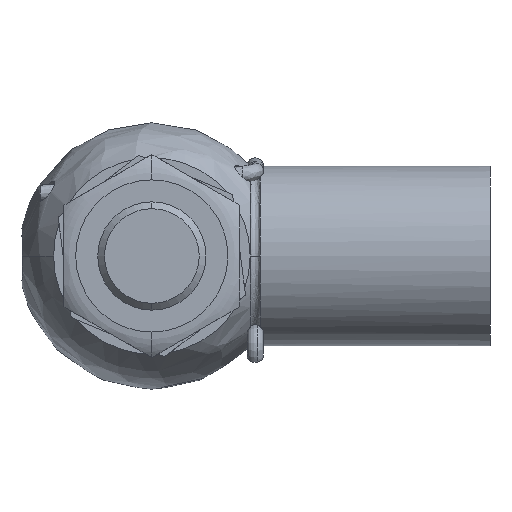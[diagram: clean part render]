
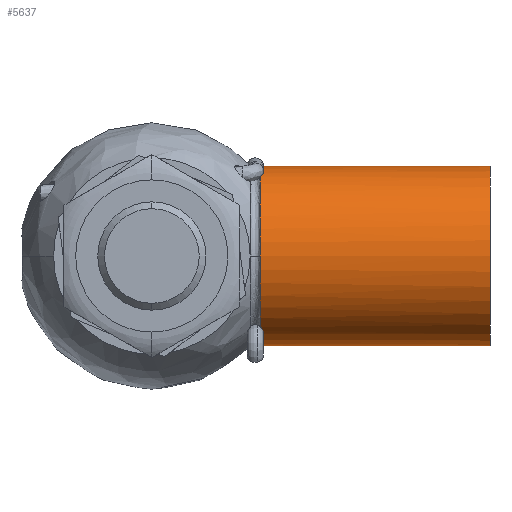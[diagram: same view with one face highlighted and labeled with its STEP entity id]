
A CAD part, front view. The second image highlights one B-rep face of the part: STEP entity #5637.
In plain terms, the highlighted cylindrical face has radius 6.65 mm (diameter 13.3 mm), a partial arc.
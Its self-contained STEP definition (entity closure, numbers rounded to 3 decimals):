
#27 = CARTESIAN_POINT ( 'NONE',  ( 8.021, 14.803, -5.273 ) ) ;
#44 = CARTESIAN_POINT ( 'NONE',  ( 8.021, 15.721, 5.858 ) ) ;
#184 = CARTESIAN_POINT ( 'NONE',  ( 8.246, 16.327, 6.144 ) ) ;
#229 = DIRECTION ( 'NONE',  ( 1., 0., 0. ) ) ;
#489 = DIRECTION ( 'NONE',  ( -1., 0., 0. ) ) ;
#551 = CARTESIAN_POINT ( 'NONE',  ( 8.246, 16.327, 6.144 ) ) ;
#578 = CARTESIAN_POINT ( 'NONE',  ( 8.245, 15.267, -5.602 ) ) ;
#673 = CARTESIAN_POINT ( 'NONE',  ( 8.245, 17.994, 6.603 ) ) ;
#787 = CARTESIAN_POINT ( 'NONE',  ( 8.021, 18.861, -0.004 ) ) ;
#913 = CIRCLE ( 'NONE', #7521, 6.65 ) ;
#1137 = DIRECTION ( 'NONE',  ( 1., 0., 0. ) ) ;
#1139 = EDGE_CURVE ( 'NONE', #2258, #8980, #3298, .T. ) ;
#1181 = CARTESIAN_POINT ( 'NONE',  ( 8.245, 15.536, -5.763 ) ) ;
#1233 = CARTESIAN_POINT ( 'NONE',  ( 8.215, 16.108, 6.05 ) ) ;
#1338 = DIRECTION ( 'NONE',  ( 1., 0., 0. ) ) ;
#1357 = ORIENTED_EDGE ( 'NONE', *, *, #8359, .T. ) ;
#1374 = EDGE_CURVE ( 'NONE', #6977, #8491, #6641, .T. ) ;
#1393 = CARTESIAN_POINT ( 'NONE',  ( 8.245, 15.4, -5.685 ) ) ;
#1399 = CARTESIAN_POINT ( 'NONE',  ( 8.255, 17.143, 6.435 ) ) ;
#1605 = CIRCLE ( 'NONE', #3646, 6.65 ) ;
#1900 = AXIS2_PLACEMENT_3D ( 'NONE', #9259, #4805, #2530 ) ;
#1960 = CARTESIAN_POINT ( 'NONE',  ( 6.504, 18.861, -0.004 ) ) ;
#1994 = CARTESIAN_POINT ( 'NONE',  ( 8.245, 18.276, -6.654 ) ) ;
#2025 = B_SPLINE_CURVE_WITH_KNOTS ( 'NONE', 3,
 ( #9248, #4796, #9280, #1233, #8490, #4065 ),
 .UNSPECIFIED., .F., .F.,
 ( 4, 2, 4 ),
 ( 0., 0., 0.001 ),
 .UNSPECIFIED. ) ;
#2117 = B_SPLINE_CURVE_WITH_KNOTS ( 'NONE', 3,
 ( #8753, #4289, #5771, #578, #1393, #9504 ),
 .UNSPECIFIED., .F., .F.,
 ( 4, 2, 4 ),
 ( 0., 0., 0.001 ),
 .UNSPECIFIED. ) ;
#2256 = EDGE_CURVE ( 'NONE', #6934, #2258, #8437, .T. ) ;
#2258 = VERTEX_POINT ( 'NONE', #8009 ) ;
#2530 = DIRECTION ( 'NONE',  ( 0., -1., 0. ) ) ;
#2672 = DIRECTION ( 'NONE',  ( 0., 0., -1. ) ) ;
#2809 = LINE ( 'NONE', #7791, #4321 ) ;
#2904 = ORIENTED_EDGE ( 'NONE', *, *, #6802, .T. ) ;
#3298 = LINE ( 'NONE', #5335, #3651 ) ;
#3370 = CARTESIAN_POINT ( 'NONE',  ( 8.245, 15.536, -5.763 ) ) ;
#3465 = CARTESIAN_POINT ( 'NONE',  ( 8.245, 16.05, -6.038 ) ) ;
#3586 = B_SPLINE_CURVE_WITH_KNOTS ( 'NONE', 3,
 ( #3370, #9419, #3465, #7838, #7182, #6428, #1994, #4868 ),
 .UNSPECIFIED., .F., .F.,
 ( 4, 2, 2, 4 ),
 ( -0.003, -0.003, -0.002, 0. ),
 .UNSPECIFIED. ) ;
#3634 = DIRECTION ( 'NONE',  ( 1., 0., 0. ) ) ;
#3646 = AXIS2_PLACEMENT_3D ( 'NONE', #7820, #489, #2672 ) ;
#3651 = VECTOR ( 'NONE', #229, 1000. ) ;
#3941 = VERTEX_POINT ( 'NONE', #44 ) ;
#4065 = CARTESIAN_POINT ( 'NONE',  ( 8.246, 16.327, 6.144 ) ) ;
#4289 = CARTESIAN_POINT ( 'NONE',  ( 8.131, 14.892, -5.342 ) ) ;
#4321 = VECTOR ( 'NONE', #1137, 1000. ) ;
#4441 = CARTESIAN_POINT ( 'NONE',  ( 25.004, 18.861, -6.654 ) ) ;
#4796 = CARTESIAN_POINT ( 'NONE',  ( 8.087, 15.81, 5.905 ) ) ;
#4805 = DIRECTION ( 'NONE',  ( 1., 0., 0. ) ) ;
#4868 = CARTESIAN_POINT ( 'NONE',  ( 8.245, 18.861, -6.654 ) ) ;
#4956 = CARTESIAN_POINT ( 'NONE',  ( 8.245, 18.861, 6.646 ) ) ;
#5027 = ORIENTED_EDGE ( 'NONE', *, *, #2256, .F. ) ;
#5335 = CARTESIAN_POINT ( 'NONE',  ( 6.504, 18.861, 6.646 ) ) ;
#5637 = ADVANCED_FACE ( 'NONE', ( #8112 ), #8827, .T. ) ;
#5725 = DIRECTION ( 'NONE',  ( 0., 0., -1. ) ) ;
#5771 = CARTESIAN_POINT ( 'NONE',  ( 8.19, 15.013, -5.431 ) ) ;
#5776 = CARTESIAN_POINT ( 'NONE',  ( 8.267, 16.728, 6.31 ) ) ;
#6050 = ORIENTED_EDGE ( 'NONE', *, *, #1139, .F. ) ;
#6054 = VERTEX_POINT ( 'NONE', #4441 ) ;
#6081 = ORIENTED_EDGE ( 'NONE', *, *, #8985, .F. ) ;
#6428 = CARTESIAN_POINT ( 'NONE',  ( 8.245, 17.704, -6.579 ) ) ;
#6641 = CIRCLE ( 'NONE', #1900, 6.65 ) ;
#6802 = EDGE_CURVE ( 'NONE', #3941, #6977, #913, .T. ) ;
#6934 = VERTEX_POINT ( 'NONE', #184 ) ;
#6977 = VERTEX_POINT ( 'NONE', #9076 ) ;
#7077 = CARTESIAN_POINT ( 'NONE',  ( 25.004, 18.861, 6.646 ) ) ;
#7182 = CARTESIAN_POINT ( 'NONE',  ( 8.245, 16.867, -6.355 ) ) ;
#7217 = ORIENTED_EDGE ( 'NONE', *, *, #9074, .T. ) ;
#7267 = CARTESIAN_POINT ( 'NONE',  ( 8.248, 18.427, 6.646 ) ) ;
#7521 = AXIS2_PLACEMENT_3D ( 'NONE', #787, #3634, #8834 ) ;
#7555 = EDGE_CURVE ( 'NONE', #6054, #8980, #1605, .T. ) ;
#7594 = EDGE_CURVE ( 'NONE', #8491, #8119, #2117, .T. ) ;
#7713 = VERTEX_POINT ( 'NONE', #8004 ) ;
#7791 = CARTESIAN_POINT ( 'NONE',  ( 6.504, 18.861, -6.654 ) ) ;
#7820 = CARTESIAN_POINT ( 'NONE',  ( 25.004, 18.861, -0.004 ) ) ;
#7838 = CARTESIAN_POINT ( 'NONE',  ( 8.246, 16.589, -6.261 ) ) ;
#7897 = ORIENTED_EDGE ( 'NONE', *, *, #7555, .T. ) ;
#7996 = EDGE_LOOP ( 'NONE', ( #6050, #5027, #6081, #2904, #8629, #8146, #1357, #7217, #7897 ) ) ;
#8004 = CARTESIAN_POINT ( 'NONE',  ( 8.245, 18.861, -6.654 ) ) ;
#8009 = CARTESIAN_POINT ( 'NONE',  ( 8.245, 18.861, 6.646 ) ) ;
#8112 = FACE_OUTER_BOUND ( 'NONE', #7996, .T. ) ;
#8119 = VERTEX_POINT ( 'NONE', #1181 ) ;
#8146 = ORIENTED_EDGE ( 'NONE', *, *, #7594, .T. ) ;
#8359 = EDGE_CURVE ( 'NONE', #8119, #7713, #3586, .T. ) ;
#8437 = B_SPLINE_CURVE_WITH_KNOTS ( 'NONE', 3,
 ( #551, #5776, #1399, #673, #7267, #4956 ),
 .UNSPECIFIED., .F., .F.,
 ( 4, 2, 4 ),
 ( -0.003, -0.001, 0. ),
 .UNSPECIFIED. ) ;
#8490 = CARTESIAN_POINT ( 'NONE',  ( 8.238, 16.217, 6.099 ) ) ;
#8491 = VERTEX_POINT ( 'NONE', #27 ) ;
#8629 = ORIENTED_EDGE ( 'NONE', *, *, #1374, .T. ) ;
#8753 = CARTESIAN_POINT ( 'NONE',  ( 8.021, 14.803, -5.273 ) ) ;
#8827 = CYLINDRICAL_SURFACE ( 'NONE', #9100, 6.65 ) ;
#8834 = DIRECTION ( 'NONE',  ( 0., -1., 0. ) ) ;
#8980 = VERTEX_POINT ( 'NONE', #7077 ) ;
#8985 = EDGE_CURVE ( 'NONE', #3941, #6934, #2025, .T. ) ;
#9074 = EDGE_CURVE ( 'NONE', #7713, #6054, #2809, .T. ) ;
#9076 = CARTESIAN_POINT ( 'NONE',  ( 8.021, 12.211, -0.004 ) ) ;
#9100 = AXIS2_PLACEMENT_3D ( 'NONE', #1960, #1338, #5725 ) ;
#9248 = CARTESIAN_POINT ( 'NONE',  ( 8.021, 15.721, 5.858 ) ) ;
#9259 = CARTESIAN_POINT ( 'NONE',  ( 8.021, 18.861, -0.004 ) ) ;
#9280 = CARTESIAN_POINT ( 'NONE',  ( 8.139, 15.904, 5.954 ) ) ;
#9419 = CARTESIAN_POINT ( 'NONE',  ( 8.245, 15.789, -5.91 ) ) ;
#9504 = CARTESIAN_POINT ( 'NONE',  ( 8.245, 15.536, -5.763 ) ) ;
